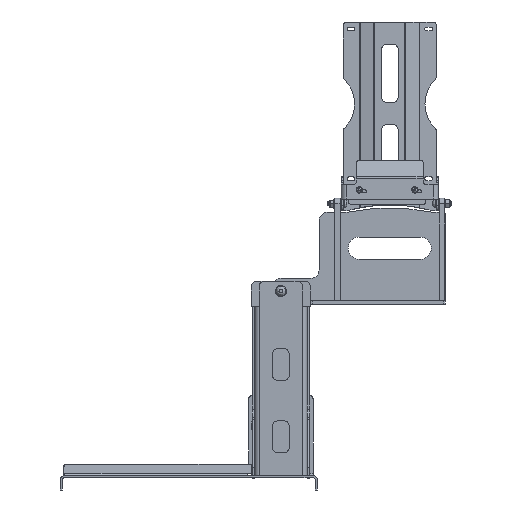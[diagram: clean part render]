
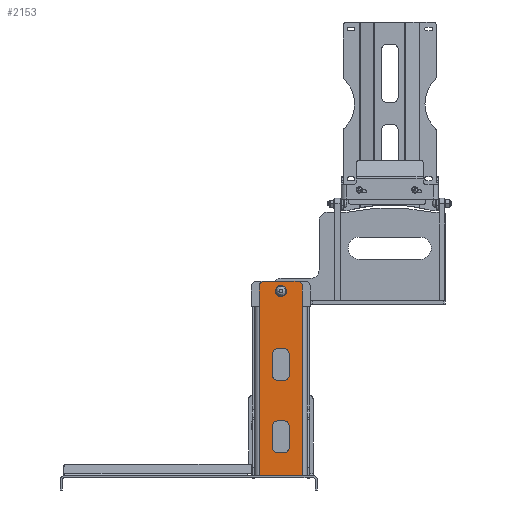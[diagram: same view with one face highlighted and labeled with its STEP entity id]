
A CAD part, front view. The second image highlights one B-rep face of the part: STEP entity #2153.
In plain terms, the highlighted planar face has unit normal (0, -1, 0).
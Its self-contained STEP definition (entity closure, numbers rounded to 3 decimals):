
#2153=ADVANCED_FACE('',(#3695,#3696,#3697,#3698),#3699,.T.);
#3695=FACE_OUTER_BOUND('',#6100,.T.);
#3696=FACE_BOUND('',#6101,.T.);
#3697=FACE_BOUND('',#6102,.T.);
#3698=FACE_BOUND('',#6103,.T.);
#3699=PLANE('',#6104);
#6100=EDGE_LOOP('',(#13033,#13034,#13035,#13036,#13037,#13038,#13039,#13040,#13041,#13042,#13043,#13044));
#6101=EDGE_LOOP('',(#13045,#13046,#13047,#13048,#13049,#13050,#13051,#13052));
#6102=EDGE_LOOP('',(#13053));
#6103=EDGE_LOOP('',(#13054,#13055,#13056,#13057,#13058,#13059,#13060,#13061));
#6104=AXIS2_PLACEMENT_3D('',#13062,#13063,#13064);
#13033=ORIENTED_EDGE('',*,*,#16695,.T.);
#13034=ORIENTED_EDGE('',*,*,#16696,.T.);
#13035=ORIENTED_EDGE('',*,*,#16697,.T.);
#13036=ORIENTED_EDGE('',*,*,#16698,.T.);
#13037=ORIENTED_EDGE('',*,*,#16692,.T.);
#13038=ORIENTED_EDGE('',*,*,#16699,.F.);
#13039=ORIENTED_EDGE('',*,*,#16658,.T.);
#13040=ORIENTED_EDGE('',*,*,#16700,.F.);
#13041=ORIENTED_EDGE('',*,*,#16701,.F.);
#13042=ORIENTED_EDGE('',*,*,#16702,.F.);
#13043=ORIENTED_EDGE('',*,*,#16703,.T.);
#13044=ORIENTED_EDGE('',*,*,#16704,.T.);
#13045=ORIENTED_EDGE('',*,*,#16705,.F.);
#13046=ORIENTED_EDGE('',*,*,#16706,.F.);
#13047=ORIENTED_EDGE('',*,*,#16707,.F.);
#13048=ORIENTED_EDGE('',*,*,#16708,.F.);
#13049=ORIENTED_EDGE('',*,*,#16709,.F.);
#13050=ORIENTED_EDGE('',*,*,#16710,.F.);
#13051=ORIENTED_EDGE('',*,*,#16711,.F.);
#13052=ORIENTED_EDGE('',*,*,#16712,.F.);
#13053=ORIENTED_EDGE('',*,*,#16713,.F.);
#13054=ORIENTED_EDGE('',*,*,#16714,.F.);
#13055=ORIENTED_EDGE('',*,*,#16715,.F.);
#13056=ORIENTED_EDGE('',*,*,#16716,.F.);
#13057=ORIENTED_EDGE('',*,*,#16717,.F.);
#13058=ORIENTED_EDGE('',*,*,#16718,.F.);
#13059=ORIENTED_EDGE('',*,*,#16719,.F.);
#13060=ORIENTED_EDGE('',*,*,#16720,.F.);
#13061=ORIENTED_EDGE('',*,*,#16721,.F.);
#13062=CARTESIAN_POINT('',(242.0,298.0,104.0));
#13063=DIRECTION('',(0.,-1.0,0.));
#13064=DIRECTION('',(-1.0,0.,0.));
#16658=EDGE_CURVE('',#19696,#19694,#19697,.T.);
#16692=EDGE_CURVE('',#19762,#19763,#19764,.T.);
#16695=EDGE_CURVE('',#19767,#19768,#19769,.T.);
#16696=EDGE_CURVE('',#19768,#19770,#19771,.T.);
#16697=EDGE_CURVE('',#19770,#19772,#19773,.T.);
#16698=EDGE_CURVE('',#19772,#19762,#19774,.T.);
#16699=EDGE_CURVE('',#19696,#19763,#19775,.T.);
#16700=EDGE_CURVE('',#19776,#19694,#19777,.T.);
#16701=EDGE_CURVE('',#19778,#19776,#19779,.T.);
#16702=EDGE_CURVE('',#19780,#19778,#19781,.T.);
#16703=EDGE_CURVE('',#19780,#19782,#19783,.T.);
#16704=EDGE_CURVE('',#19782,#19767,#19784,.T.);
#16705=EDGE_CURVE('',#19785,#19786,#19787,.T.);
#16706=EDGE_CURVE('',#19788,#19785,#19789,.T.);
#16707=EDGE_CURVE('',#19790,#19788,#19791,.T.);
#16708=EDGE_CURVE('',#19792,#19790,#19793,.T.);
#16709=EDGE_CURVE('',#19794,#19792,#19795,.T.);
#16710=EDGE_CURVE('',#19796,#19794,#19797,.T.);
#16711=EDGE_CURVE('',#19798,#19796,#19799,.T.);
#16712=EDGE_CURVE('',#19786,#19798,#19800,.T.);
#16713=EDGE_CURVE('',#19801,#19801,#19802,.T.);
#16714=EDGE_CURVE('',#19803,#19804,#19805,.T.);
#16715=EDGE_CURVE('',#19806,#19803,#19807,.T.);
#16716=EDGE_CURVE('',#19808,#19806,#19809,.T.);
#16717=EDGE_CURVE('',#19810,#19808,#19811,.T.);
#16718=EDGE_CURVE('',#19812,#19810,#19813,.T.);
#16719=EDGE_CURVE('',#19814,#19812,#19815,.T.);
#16720=EDGE_CURVE('',#19816,#19814,#19817,.T.);
#16721=EDGE_CURVE('',#19804,#19816,#19818,.T.);
#19694=VERTEX_POINT('',#24426);
#19696=VERTEX_POINT('',#24429);
#19697=LINE('',#24430,#24431);
#19762=VERTEX_POINT('',#24517);
#19763=VERTEX_POINT('',#24518);
#19764=LINE('',#24519,#24520);
#19767=VERTEX_POINT('',#24525);
#19768=VERTEX_POINT('',#24526);
#19769=LINE('',#24527,#24528);
#19770=VERTEX_POINT('',#24529);
#19771=CIRCLE('',#24530,8.0);
#19772=VERTEX_POINT('',#24531);
#19773=LINE('',#24532,#24533);
#19774=CIRCLE('',#24534,8.0);
#19775=LINE('',#24535,#24536);
#19776=VERTEX_POINT('',#24537);
#19777=LINE('',#24538,#24539);
#19778=VERTEX_POINT('',#24540);
#19779=LINE('',#24541,#24542);
#19780=VERTEX_POINT('',#24543);
#19781=LINE('',#24544,#24545);
#19782=VERTEX_POINT('',#24546);
#19783=LINE('',#24547,#24548);
#19784=LINE('',#24549,#24550);
#19785=VERTEX_POINT('',#24551);
#19786=VERTEX_POINT('',#24552);
#19787=LINE('',#24553,#24554);
#19788=VERTEX_POINT('',#24555);
#19789=CIRCLE('',#24556,10.0);
#19790=VERTEX_POINT('',#24557);
#19791=LINE('',#24558,#24559);
#19792=VERTEX_POINT('',#24560);
#19793=CIRCLE('',#24561,10.0);
#19794=VERTEX_POINT('',#24562);
#19795=LINE('',#24563,#24564);
#19796=VERTEX_POINT('',#24565);
#19797=CIRCLE('',#24566,10.0);
#19798=VERTEX_POINT('',#24567);
#19799=LINE('',#24568,#24569);
#19800=CIRCLE('',#24570,10.0);
#19801=VERTEX_POINT('',#24571);
#19802=CIRCLE('',#24572,5.1);
#19803=VERTEX_POINT('',#24573);
#19804=VERTEX_POINT('',#24574);
#19805=LINE('',#24575,#24576);
#19806=VERTEX_POINT('',#24577);
#19807=CIRCLE('',#24578,10.0);
#19808=VERTEX_POINT('',#24579);
#19809=LINE('',#24580,#24581);
#19810=VERTEX_POINT('',#24582);
#19811=CIRCLE('',#24583,10.0);
#19812=VERTEX_POINT('',#24584);
#19813=LINE('',#24585,#24586);
#19814=VERTEX_POINT('',#24587);
#19815=CIRCLE('',#24588,10.0);
#19816=VERTEX_POINT('',#24589);
#19817=LINE('',#24590,#24591);
#19818=CIRCLE('',#24592,10.0);
#24426=CARTESIAN_POINT('',(232.0,298.0,104.0));
#24429=CARTESIAN_POINT('',(203.0,298.0,104.0));
#24430=CARTESIAN_POINT('',(242.0,298.0,104.0));
#24431=VECTOR('',#28762,1.0);
#24517=CARTESIAN_POINT('',(203.0,298.0,446.0));
#24518=CARTESIAN_POINT('',(203.0,298.0,409.0));
#24519=CARTESIAN_POINT('',(203.0,298.0,104.0));
#24520=VECTOR('',#28820,1.0);
#24525=CARTESIAN_POINT('',(281.0,298.0,409.0));
#24526=CARTESIAN_POINT('',(281.0,298.0,446.0));
#24527=CARTESIAN_POINT('',(281.0,298.0,104.0));
#24528=VECTOR('',#28823,1.0);
#24529=CARTESIAN_POINT('',(273.0,298.0,454.0));
#24530=AXIS2_PLACEMENT_3D('',#28824,#28825,#28826);
#24531=CARTESIAN_POINT('',(211.0,298.0,454.0));
#24532=CARTESIAN_POINT('',(242.0,298.0,454.0));
#24533=VECTOR('',#28827,1.0);
#24534=AXIS2_PLACEMENT_3D('',#28828,#28829,#28830);
#24535=CARTESIAN_POINT('',(203.0,298.0,104.0));
#24536=VECTOR('',#28831,1.0);
#24537=CARTESIAN_POINT('',(232.0,298.0,101.0));
#24538=CARTESIAN_POINT('',(232.0,298.0,101.0));
#24539=VECTOR('',#28832,1.0);
#24540=CARTESIAN_POINT('',(252.0,298.0,101.0));
#24541=CARTESIAN_POINT('',(252.0,298.0,101.0));
#24542=VECTOR('',#28833,1.0);
#24543=CARTESIAN_POINT('',(252.0,298.0,104.0));
#24544=CARTESIAN_POINT('',(252.0,298.0,104.0));
#24545=VECTOR('',#28834,1.0);
#24546=CARTESIAN_POINT('',(281.0,298.0,104.0));
#24547=CARTESIAN_POINT('',(242.0,298.0,104.0));
#24548=VECTOR('',#28835,1.0);
#24549=CARTESIAN_POINT('',(281.0,298.0,104.0));
#24550=VECTOR('',#28836,1.0);
#24551=CARTESIAN_POINT('',(237.0,298.0,145.0));
#24552=CARTESIAN_POINT('',(247.0,298.0,145.0));
#24553=CARTESIAN_POINT('',(242.0,298.0,145.0));
#24554=VECTOR('',#28837,1.0);
#24555=CARTESIAN_POINT('',(227.0,298.0,155.0));
#24556=AXIS2_PLACEMENT_3D('',#28838,#28839,#28840);
#24557=CARTESIAN_POINT('',(227.0,298.0,193.0));
#24558=CARTESIAN_POINT('',(227.0,298.0,174.0));
#24559=VECTOR('',#28841,1.0);
#24560=CARTESIAN_POINT('',(237.0,298.0,203.0));
#24561=AXIS2_PLACEMENT_3D('',#28842,#28843,#28844);
#24562=CARTESIAN_POINT('',(247.0,298.0,203.0));
#24563=CARTESIAN_POINT('',(242.0,298.0,203.0));
#24564=VECTOR('',#28845,1.0);
#24565=CARTESIAN_POINT('',(257.0,298.0,193.0));
#24566=AXIS2_PLACEMENT_3D('',#28846,#28847,#28848);
#24567=CARTESIAN_POINT('',(257.0,298.0,155.0));
#24568=CARTESIAN_POINT('',(257.0,298.0,174.0));
#24569=VECTOR('',#28849,1.0);
#24570=AXIS2_PLACEMENT_3D('',#28850,#28851,#28852);
#24571=CARTESIAN_POINT('',(247.1,298.0,436.5));
#24572=AXIS2_PLACEMENT_3D('',#28853,#28854,#28855);
#24573=CARTESIAN_POINT('',(237.0,298.0,275.0));
#24574=CARTESIAN_POINT('',(247.0,298.0,275.0));
#24575=CARTESIAN_POINT('',(242.0,298.0,275.0));
#24576=VECTOR('',#28856,1.0);
#24577=CARTESIAN_POINT('',(227.0,298.0,285.0));
#24578=AXIS2_PLACEMENT_3D('',#28857,#28858,#28859);
#24579=CARTESIAN_POINT('',(227.0,298.0,323.0));
#24580=CARTESIAN_POINT('',(227.0,298.0,304.0));
#24581=VECTOR('',#28860,1.0);
#24582=CARTESIAN_POINT('',(237.0,298.0,333.0));
#24583=AXIS2_PLACEMENT_3D('',#28861,#28862,#28863);
#24584=CARTESIAN_POINT('',(247.0,298.0,333.0));
#24585=CARTESIAN_POINT('',(242.0,298.0,333.0));
#24586=VECTOR('',#28864,1.0);
#24587=CARTESIAN_POINT('',(257.0,298.0,323.0));
#24588=AXIS2_PLACEMENT_3D('',#28865,#28866,#28867);
#24589=CARTESIAN_POINT('',(257.0,298.0,285.0));
#24590=CARTESIAN_POINT('',(257.0,298.0,304.0));
#24591=VECTOR('',#28868,1.0);
#24592=AXIS2_PLACEMENT_3D('',#28869,#28870,#28871);
#28762=DIRECTION('',(1.0,0.,0.));
#28820=DIRECTION('',(0.,0.,-1.0));
#28823=DIRECTION('',(0.,0.,1.0));
#28824=CARTESIAN_POINT('',(273.0,298.0,446.0));
#28825=DIRECTION('',(0.,-1.0,0.));
#28826=DIRECTION('',(0.,0.,1.0));
#28827=DIRECTION('',(-1.0,0.,0.));
#28828=CARTESIAN_POINT('',(211.0,298.0,446.0));
#28829=DIRECTION('',(0.,-1.0,0.));
#28830=DIRECTION('',(0.,0.,1.0));
#28831=DIRECTION('',(0.,0.,1.0));
#28832=DIRECTION('',(0.,0.,1.0));
#28833=DIRECTION('',(-1.0,0.,0.));
#28834=DIRECTION('',(0.,0.,-1.0));
#28835=DIRECTION('',(1.0,0.,0.));
#28836=DIRECTION('',(0.,0.,1.0));
#28837=DIRECTION('',(1.0,0.,0.));
#28838=CARTESIAN_POINT('',(237.0,298.0,155.0));
#28839=DIRECTION('',(0.,-1.0,0.));
#28840=DIRECTION('',(1.0,0.,0.));
#28841=DIRECTION('',(0.,0.,-1.0));
#28842=CARTESIAN_POINT('',(237.0,298.0,193.0));
#28843=DIRECTION('',(0.,-1.0,0.));
#28844=DIRECTION('',(1.0,0.,0.));
#28845=DIRECTION('',(-1.0,0.,0.));
#28846=CARTESIAN_POINT('',(247.0,298.0,193.0));
#28847=DIRECTION('',(0.,-1.0,0.));
#28848=DIRECTION('',(1.0,0.,0.));
#28849=DIRECTION('',(0.,0.,1.0));
#28850=CARTESIAN_POINT('',(247.0,298.0,155.0));
#28851=DIRECTION('',(0.,-1.0,0.));
#28852=DIRECTION('',(1.0,0.,0.));
#28853=CARTESIAN_POINT('',(242.0,298.0,436.5));
#28854=DIRECTION('',(0.,-1.0,0.));
#28855=DIRECTION('',(1.0,0.,0.));
#28856=DIRECTION('',(1.0,0.,0.));
#28857=CARTESIAN_POINT('',(237.0,298.0,285.0));
#28858=DIRECTION('',(0.,-1.0,0.));
#28859=DIRECTION('',(1.0,0.,0.));
#28860=DIRECTION('',(0.,0.,-1.0));
#28861=CARTESIAN_POINT('',(237.0,298.0,323.0));
#28862=DIRECTION('',(0.,-1.0,0.));
#28863=DIRECTION('',(1.0,0.,0.));
#28864=DIRECTION('',(-1.0,0.,0.));
#28865=CARTESIAN_POINT('',(247.0,298.0,323.0));
#28866=DIRECTION('',(0.,-1.0,0.));
#28867=DIRECTION('',(1.0,0.,0.));
#28868=DIRECTION('',(0.,0.,1.0));
#28869=CARTESIAN_POINT('',(247.0,298.0,285.0));
#28870=DIRECTION('',(0.,-1.0,0.));
#28871=DIRECTION('',(1.0,0.,0.));
